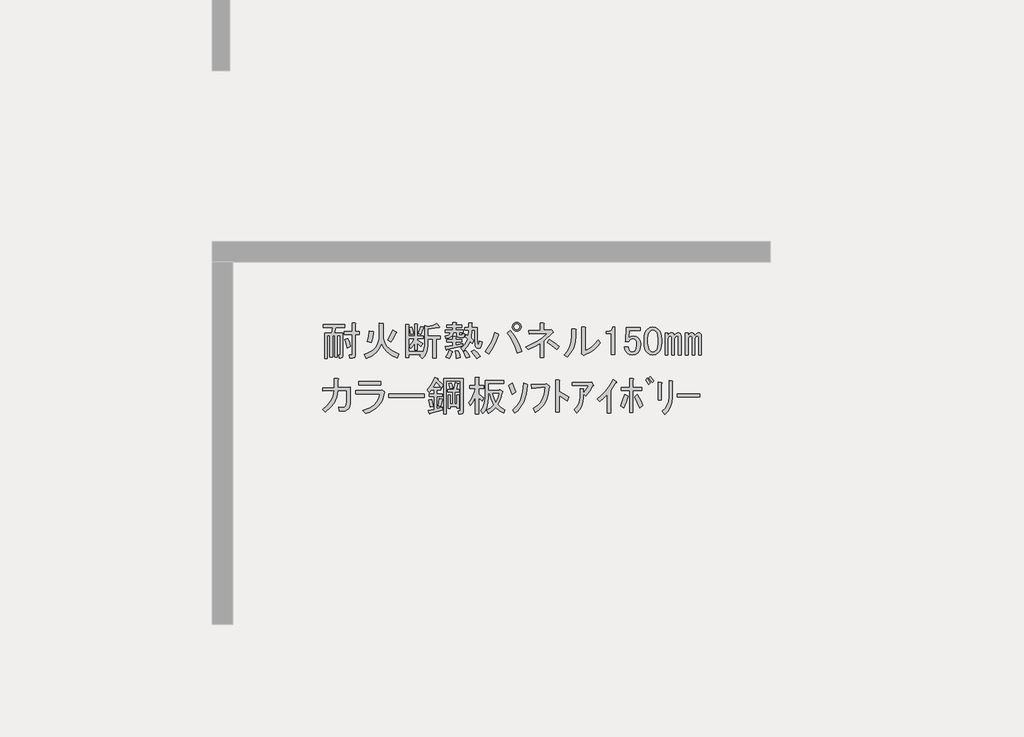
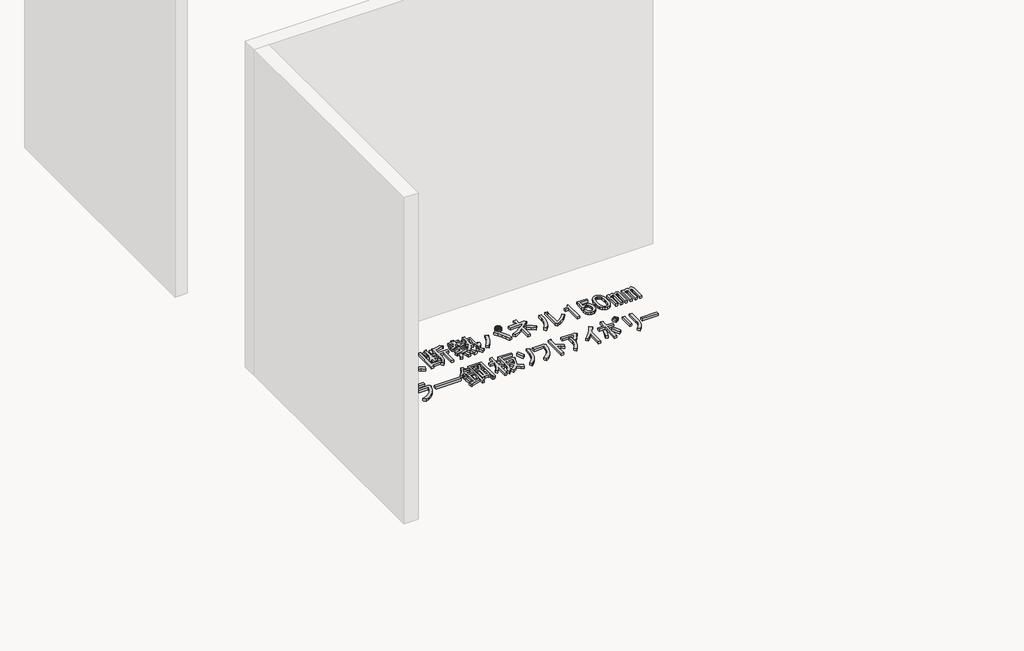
# One storey, part 108 of 117: 1 proxy.
"""IFC4 building model written with IfcOpenShell, lengths in millimetres."""

import ifcopenshell
import ifcopenshell.guid

model = None  # the IFC model being written
_history = None  # IfcOwnerHistory: only IFC2X3 demands one
_inside = {}  # id of a spatial element -> (the spatial element, [elements in it])
_under = {}  # id of a project, library or spatial element -> (it, [spatial elements below it])
_declared = {}  # id of a project -> (the project, [libraries it declares])
_typed = {}  # id of a type object -> (the type object, [elements of that type])
_made_of = {}  # id of a material, layer set ... -> (it, [elements and type objects made of it])


def new_model(schema):
    """Start an empty IFC model of exactly this schema.

    Asked for "IFC4X3", IfcOpenShell would pick the latest addendum, in which some entities
    have other attributes; the version numbers below select the first issue.
    IFC2X3 requires an IfcOwnerHistory on every rooted entity: one is made here for all.
    """
    global model, _history
    if schema == "IFC4X3":
        model = ifcopenshell.file(schema_version=(4, 3, 0, 0))
    else:
        model = ifcopenshell.file(schema=schema)
    _inside.clear()
    _under.clear()
    _declared.clear()
    _typed.clear()
    _made_of.clear()
    _history = None
    if model.schema == "IFC2X3":
        org = make("IfcOrganization", Name="unknown")
        user = make(
            "IfcPersonAndOrganization",
            ThePerson=make("IfcPerson", FamilyName="unknown"),
            TheOrganization=org,
        )
        app = make(
            "IfcApplication",
            ApplicationDeveloper=org,
            Version="unknown",
            ApplicationFullName="unknown",
            ApplicationIdentifier="unknown",
        )
        _history = make(
            "IfcOwnerHistory",
            OwningUser=user,
            OwningApplication=app,
            ChangeAction="ADDED",
            CreationDate=0,
        )
    return model


def make(cls, **values):
    """One entity of the class cls with the attributes given. An attribute that is None is left unset."""
    return model.create_entity(
        cls, **{name: value for name, value in values.items() if value is not None}
    )


def rooted(cls, **values):
    """An entity with a GlobalId (a new one), such as an element, a storey or a relation."""
    return make(cls, GlobalId=ifcopenshell.guid.new(), OwnerHistory=_history, **values)


def si_unit(unit_type, name, prefix=None):
    """IfcSIUnit, for example si_unit("LENGTHUNIT", "METRE", prefix="MILLI")."""
    return make("IfcSIUnit", UnitType=unit_type, Prefix=prefix, Name=name)


def assignment(units):
    """IfcUnitAssignment: the units of a project."""
    return None if units is None else make("IfcUnitAssignment", Units=units)


def point(xyz):
    """IfcCartesianPoint."""
    return None if xyz is None else make("IfcCartesianPoint", Coordinates=xyz)


def direction(xyz):
    """IfcDirection."""
    return None if xyz is None else make("IfcDirection", DirectionRatios=xyz)


def frame(location, z_axis=None, x_axis=None):
    """IfcAxis2Placement3D, a coordinate frame: its origin and axes. An axis left out is left unset."""
    return make(
        "IfcAxis2Placement3D",
        Location=point(location),
        Axis=direction(z_axis),
        RefDirection=direction(x_axis),
    )


def origin():
    """The frame at (0, 0, 0) with its axes left unset."""
    return frame((0.0, 0.0, 0.0))


def place(relative_to, where):
    """IfcLocalPlacement: puts the frame where relative to a parent placement (None: the world)."""
    return make(
        "IfcLocalPlacement", PlacementRelTo=relative_to, RelativePlacement=where
    )


def context(
    kind, dimensions, precision=None, world=None, true_north=None, identifier=None
):
    """IfcGeometricRepresentationContext, for example the 3D "Model" context."""
    return make(
        "IfcGeometricRepresentationContext",
        ContextIdentifier=identifier,
        ContextType=kind,
        CoordinateSpaceDimension=dimensions,
        Precision=precision,
        WorldCoordinateSystem=world,
        TrueNorth=true_north,
    )


def project(units=None, contexts=None):
    """IfcProject with its units and contexts."""
    return rooted(
        "IfcProject",
        Name="project",
        RepresentationContexts=contexts,
        UnitsInContext=assignment(units),
    )


def spatial(cls, under=None, at=None, **own):
    """A site, building, storey or space (cls), placed at a placement, below another one or the project."""
    s = rooted(cls, ObjectPlacement=at, **own)
    if under is not None:
        _under.setdefault(under.id(), (under, []))[1].append(s)
    return s


def polyline(points):
    """IfcPolyline through the points."""
    return make("IfcPolyline", Points=[point(p) for p in points])


def outline(outer, holes=None, kind="AREA"):
    """IfcArbitraryClosedProfileDef: a profile drawn as a closed curve; with holes, ...WithVoids."""
    if holes is None:
        return make("IfcArbitraryClosedProfileDef", ProfileType=kind, OuterCurve=outer)
    return make(
        "IfcArbitraryProfileDefWithVoids",
        ProfileType=kind,
        OuterCurve=outer,
        InnerCurves=holes,
    )


def extrude(swept, where, along, depth):
    """IfcExtrudedAreaSolid: the profile swept, set in the frame where, extruded along a direction by depth."""
    return make(
        "IfcExtrudedAreaSolid",
        SweptArea=swept,
        Position=where,
        ExtrudedDirection=direction(along),
        Depth=depth,
    )


def shape(context_of_items, identifier, shape_type, items):
    """IfcShapeRepresentation: the items that make up one representation, for example the "Body"."""
    return make(
        "IfcShapeRepresentation",
        ContextOfItems=context_of_items,
        RepresentationIdentifier=identifier,
        RepresentationType=shape_type,
        Items=items,
    )


def made_of(thing, what):
    """Note that an element or type object is made of a material, layer set ...; save() writes the relation."""
    if what is not None:
        _made_of.setdefault(what.id(), (what, []))[1].append(thing)
    return thing


def element(
    cls,
    number,
    at=None,
    inside=None,
    cuts=None,
    type_object=None,
    material=None,
    context=None,
    identifier="Body",
    shape_type=None,
    held_by="IfcProductDefinitionShape",
    body=None,
    shapes=None,
    **own,
):
    """One element of the class cls, such as IfcWall. Its Tag is "e" and its number.

    at: its placement. inside: the storey or other place that contains it. cuts: it is an
    opening in that element (IfcRelVoidsElement). A single representation is given by context,
    identifier, shape_type and body (its items); several are given by shapes. held_by: the class
    of the entity that holds the representations. save() writes the other relations.
    """
    e = rooted(cls, Tag="e%d" % number, ObjectPlacement=at, **own)
    if body is not None:
        shapes = [shape(context, identifier, shape_type, body)]
    if shapes is not None:
        e.Representation = make(held_by, Representations=shapes)
    if inside is not None:
        _inside.setdefault(inside.id(), (inside, []))[1].append(e)
    if cuts is not None:
        rooted(
            "IfcRelVoidsElement", RelatingBuildingElement=cuts, RelatedOpeningElement=e
        )
    if type_object is not None:
        _typed.setdefault(type_object.id(), (type_object, []))[1].append(e)
    return made_of(e, material)


def aggregate(whole, parts):
    """IfcRelAggregates: a whole, such as a stair, and the parts it consists of."""
    return rooted("IfcRelAggregates", RelatingObject=whole, RelatedObjects=parts)


def save(model, path):
    """Write the relations noted so far, then the file.

    IfcRelAggregates (storeys below a building ...), IfcRelContainedInSpatialStructure (elements
    in a storey), IfcRelDefinesByType, IfcRelAssociatesMaterial and IfcRelDeclares: one each for
    every whole, place, type object, material and project.
    """
    for whole, parts in _under.values():
        aggregate(whole, parts)
    for where, things in _inside.values():
        rooted(
            "IfcRelContainedInSpatialStructure",
            RelatedElements=things,
            RelatingStructure=where,
        )
    for kind, things in _typed.values():
        rooted("IfcRelDefinesByType", RelatedObjects=things, RelatingType=kind)
    for what, things in _made_of.values():
        rooted("IfcRelAssociatesMaterial", RelatedObjects=things, RelatingMaterial=what)
    for by, libraries in _declared.values():
        rooted("IfcRelDeclares", RelatingContext=by, RelatedDefinitions=libraries)
    model.write(path)


model = new_model("IFC4")

# Units and contexts
model_context = context("Model", 3, world=origin())
ifc_project = project(units=[si_unit("LENGTHUNIT", "METRE", prefix="MILLI")], contexts=[model_context])

# Site, building, storey
site = spatial("IfcSite", under=ifc_project)
building = spatial("IfcBuilding", under=site)
storey = spatial("IfcBuildingStorey", under=building, Name="レベル 1", Elevation=500.0)

# Proxy
placement = place(None, origin())
element("IfcBuildingElementProxy", 1, Name="200㎜\u3000MS Pゴシック", ObjectType="200㎜\u3000MS Pゴシック", at=placement, inside=storey, context=model_context, shape_type="SweptSolid", body=[
    extrude(outline(polyline([(56978.5674486, 3229.3142262), (56971.0959694, 3259.7748726), (56960.176115, 3289.0860605), (56982.0158237, 3297.132269), (56994.372501, 3267.5337164), (57001.5566157, 3238.5098931), (56978.5674486, 3229.3142262)])), frame((0.0, 0.0, 500.0), z_axis=(0.0, 0.0, 1.0), x_axis=(1.0, 0.0, 0.0)), (0.0, 0.0, 1.0), 25.0),
    extrude(outline(polyline([(56887.7602388, 3320.121436), (56871.6678219, 3320.121436), (56871.6678219, 3164.9445585), (56852.1270299, 3164.9445585), (56852.1270299, 3320.121436), (56833.7356963, 3320.121436), (56833.7356963, 3152.3005167), (56814.1949043, 3152.3005167), (56814.1949043, 3338.5127697), (56865.9205301, 3338.5127697), (56871.6678219, 3377.5943537), (56804.9992375, 3377.5943537), (56804.9992375, 3399.4340623), (56960.176115, 3399.4340623), (56960.176115, 3377.5943537), (56895.8064473, 3377.5943537), (56885.4613221, 3338.5127697), (56946.3826148, 3338.5127697), (56946.3826148, 3170.6918503), (56942.3595106, 3158.6225376), (56930.2901979, 3154.5994334), (56919.9450727, 3154.5994334), (56915.3472393, 3176.439142), (56922.2439894, 3176.439142), (56925.6923645, 3177.5886004), (56926.8418228, 3181.0369755), (56926.8418228, 3320.121436), (56907.3010308, 3320.121436), (56907.3010308, 3164.9445585), (56887.7602388, 3164.9445585), (56887.7602388, 3320.121436)])), frame((0.0, 0.0, 500.0), z_axis=(0.0, 0.0, 1.0), x_axis=(1.0, 0.0, 0.0)), (0.0, 0.0, 1.0), 25.0),
    extrude(outline(polyline([(56956.72774, 3325.8687278), (56956.72774, 3347.7084365), (57013.0511992, 3347.7084365), (57013.0511992, 3409.7791875), (57034.8909079, 3409.7791875), (57039.7761059, 3407.4802708), (57036.0403663, 3402.8824374), (57036.0403663, 3347.7084365), (57064.7768251, 3347.7084365), (57064.7768251, 3325.8687278), (57036.0403663, 3325.8687278), (57036.0403663, 3172.990767), (57031.4425328, 3159.1972668), (57017.6490326, 3154.5994334), (56994.6598656, 3154.5994334), (56991.2114905, 3176.439142), (57008.4533658, 3176.439142), (57011.9017409, 3177.5886004), (57013.0511992, 3181.0369755), (57013.0511992, 3325.8687278), (56956.72774, 3325.8687278)])), frame((0.0, 0.0, 500.0), z_axis=(0.0, 0.0, 1.0), x_axis=(1.0, 0.0, 0.0)), (0.0, 0.0, 1.0), 25.0),
    extrude(outline(polyline([(57226.8504527, 3261.4990601), (57210.9017181, 3226.6561038), (57187.1941395, 3196.8420278), (57155.7277172, 3172.0568321), (57116.5024509, 3152.3005167), (57102.7089507, 3181.0369755), (57128.032955, 3190.71757), (57149.9804254, 3202.5174784), (57168.5513619, 3216.4367006), (57183.7457645, 3232.4752367), (57195.5636332, 3250.6330866), (57204.0049679, 3270.9102504), (57209.0697688, 3293.3067279), (57210.7580358, 3317.8225193), (57210.7580358, 3408.6297292), (57237.1955779, 3406.3308125), (57240.6439529, 3402.8824374), (57237.1955779, 3397.1351456), (57237.1955779, 3317.8225193), (57238.9916065, 3296.377937), (57244.3796926, 3276.2983364), (57253.3598359, 3257.5837176), (57265.9320367, 3240.2340806), (57282.0962947, 3224.2494254), (57301.8526102, 3209.629752), (57352.1414131, 3184.4853505), (57340.6468295, 3155.7488917), (57301.2060398, 3175.2896837), (57269.0930471, 3199.4283091), (57244.3078514, 3228.1647679), (57226.8504527, 3261.4990601)])), frame((0.0, 0.0, 500.0), z_axis=(0.0, 0.0, 1.0), x_axis=(1.0, 0.0, 0.0)), (0.0, 0.0, 1.0), 25.0),
    extrude(outline(polyline([(57330.3017044, 3337.3633113), (57310.1861832, 3297.9943628), (57293.5190371, 3271.8441853), (57270.5298701, 3286.7871438), (57290.3580266, 3318.3972485), (57308.4619957, 3358.0535617), (57333.7500794, 3345.4095198), (57336.3363607, 3341.6737801), (57330.3017044, 3337.3633113)])), frame((0.0, 0.0, 500.0), z_axis=(0.0, 0.0, 1.0), x_axis=(1.0, 0.0, 0.0)), (0.0, 0.0, 1.0), 25.0),
    extrude(outline(polyline([(57122.2497427, 3276.4420187), (57134.0316908, 3310.6384046), (57137.1927012, 3353.4557283), (57165.92916, 3346.5589781), (57170.5269934, 3342.8232385), (57165.92916, 3338.5127697), (57162.1934204, 3304.0290191), (57150.9862015, 3267.2463519), (57122.2497427, 3276.4420187)])), frame((0.0, 0.0, 500.0), z_axis=(0.0, 0.0, 1.0), x_axis=(1.0, 0.0, 0.0)), (0.0, 0.0, 1.0), 25.0),
    extrude(outline(polyline([(57647.5522095, 3381.0427287), (57645.828022, 3376.4448953), (57638.3565427, 3378.743812), (57561.3428331, 3366.0997701), (57561.3428331, 3316.673061), (57653.2995013, 3316.673061), (57653.2995013, 3294.8333523), (57622.2641258, 3294.8333523), (57622.2641258, 3154.5994334), (57599.2749588, 3154.5994334), (57599.2749588, 3294.8333523), (57561.3428331, 3294.8333523), (57561.3428331, 3245.4066432), (57558.7565518, 3217.6041193), (57550.997708, 3192.8189236), (57538.0663015, 3171.051056), (57519.9623325, 3152.3005167), (57502.7204572, 3171.8413086), (57513.0655823, 3181.0369755), (57423.4078309, 3181.0369755), (57423.4078309, 3159.1972668), (57400.4186638, 3159.1972668), (57400.4186638, 3398.284604), (57422.2583725, 3398.284604), (57427.1435705, 3395.9856873), (57423.4078309, 3391.3878539), (57423.4078309, 3315.5236026), (57465.9377899, 3315.5236026), (57465.9377899, 3402.8824374), (57484.3291235, 3402.8824374), (57489.2143215, 3400.5835207), (57485.4785819, 3395.9856873), (57485.4785819, 3315.5236026), (57529.1579993, 3315.5236026), (57529.1579993, 3297.132269), (57485.4785819, 3297.132269), (57485.4785819, 3287.9366022), (57525.7096242, 3261.4990601), (57511.916124, 3239.6593514), (57485.4785819, 3266.0968935), (57485.4785819, 3213.2218093), (57465.9377899, 3213.2218093), (57465.9377899, 3261.4990601), (57452.7190189, 3241.6709035), (57438.3507895, 3225.8658512), (57425.7067476, 3244.2571848), (57447.5464563, 3268.3958102), (57464.7883316, 3297.132269), (57423.4078309, 3297.132269), (57423.4078309, 3202.8766841), (57521.1117908, 3202.8766841), (57521.1117908, 3189.0831839), (57534.0431973, 3213.2218093), (57538.3536661, 3246.5561015), (57538.3536661, 3391.3878539), (57560.1933748, 3385.6405621), (57596.4013129, 3393.1120414), (57626.8619592, 3406.3308125), (57647.5522095, 3381.0427287)])), frame((0.0, 0.0, 500.0), z_axis=(0.0, 0.0, 1.0), x_axis=(1.0, 0.0, 0.0)), (0.0, 0.0, 1.0), 25.0),
    extrude(outline(polyline([(57493.5247904, 3332.7654779), (57510.7666656, 3385.6405621), (57531.456916, 3379.8932704), (57533.1811035, 3376.7322599), (57529.1579993, 3374.1459786), (57511.916124, 3325.8687278), (57493.5247904, 3332.7654779)])), frame((0.0, 0.0, 500.0), z_axis=(0.0, 0.0, 1.0), x_axis=(1.0, 0.0, 0.0)), (0.0, 0.0, 1.0), 25.0),
    extrude(outline(polyline([(57439.5002478, 3324.7192695), (57426.8562059, 3375.2954369), (57446.3969979, 3382.1921871), (57454.1558418, 3358.0535617), (57459.0410398, 3331.6160196), (57439.5002478, 3324.7192695)])), frame((0.0, 0.0, 500.0), z_axis=(0.0, 0.0, 1.0), x_axis=(1.0, 0.0, 0.0)), (0.0, 0.0, 1.0), 25.0),
    extrude(outline(polyline([(57770.5442532, 3340.8116864), (57745.2561695, 3340.8116864), (57740.6583361, 3323.3542877), (57730.3132109, 3310.0636755), (57714.220794, 3300.9398498), (57692.3810853, 3295.9828107), (57687.7832519, 3315.5236026), (57713.0713356, 3324.1445403), (57720.5428149, 3331.4723373), (57724.5659191, 3340.8116864), (57688.9327102, 3340.8116864), (57688.9327102, 3359.20302), (57742.9572528, 3359.20302), (57742.9572528, 3376.4448953), (57699.2778354, 3376.4448953), (57699.2778354, 3394.8362289), (57742.9572528, 3394.8362289), (57742.9572528, 3413.2275626), (57764.7969614, 3413.2275626), (57769.6821594, 3410.9286459), (57765.9464198, 3406.3308125), (57765.9464198, 3394.8362289), (57808.4763788, 3394.8362289), (57808.4763788, 3376.4448953), (57765.9464198, 3376.4448953), (57765.9464198, 3359.20302), (57818.821504, 3359.20302), (57818.821504, 3340.8116864), (57790.0850452, 3340.8116864), (57790.0850452, 3328.1676445), (57791.5218681, 3322.9950819), (57795.832337, 3321.2708944), (57806.1774621, 3321.2708944), (57809.9132018, 3324.4319049), (57809.6258372, 3333.9149363), (57829.1666292, 3331.6160196), (57826.2929833, 3310.0636755), (57820.9767384, 3304.6755894), (57813.0742122, 3302.8795608), (57788.9355868, 3302.8795608), (57775.1420866, 3307.7647588), (57770.5442532, 3322.4203528), (57770.5442532, 3340.8116864)])), frame((0.0, 0.0, 500.0), z_axis=(0.0, 0.0, 1.0), x_axis=(1.0, 0.0, 0.0)), (0.0, 0.0, 1.0), 25.0),
    extrude(outline(polyline([(57901.5825053, 3358.0535617), (57879.7427966, 3358.0535617), (57875.1449632, 3300.5806441), (57894.6857552, 3282.1893104), (57884.3406301, 3260.3496017), (57868.2482131, 3276.4420187), (57848.9947857, 3238.7972576), (57818.821504, 3206.3250592), (57801.5796287, 3227.0153095), (57816.6662696, 3238.9409399), (57829.7413583, 3254.0275808), (57840.804895, 3272.2752321), (57849.8568795, 3293.683894), (57832.6150042, 3308.6268525), (57840.6612127, 3325.8687278), (57854.4547129, 3315.5236026), (57856.7536296, 3358.0535617), (57829.1666292, 3358.0535617), (57829.1666292, 3376.4448953), (57856.7536296, 3376.4448953), (57856.7536296, 3410.9286459), (57878.5933383, 3410.9286459), (57883.4785363, 3408.6297292), (57879.7427966, 3404.0318957), (57879.7427966, 3376.4448953), (57921.1232973, 3376.4448953), (57921.1232973, 3279.8903937), (57924.5716724, 3255.7517683), (57927.804524, 3253.7402162), (57930.6063287, 3256.9012267), (57934.9167975, 3278.7409354), (57954.4575895, 3271.8441853), (57949.9315973, 3245.0474374), (57942.1009122, 3229.0268616), (57930.9655345, 3223.7824579), (57916.5254639, 3229.3142262), (57909.9879195, 3236.6420232), (57905.318245, 3248.280289), (57901.5825053, 3284.4882271), (57901.5825053, 3358.0535617)])), frame((0.0, 0.0, 500.0), z_axis=(0.0, 0.0, 1.0), x_axis=(1.0, 0.0, 0.0)), (0.0, 0.0, 1.0), 25.0),
    extrude(outline(polyline([(57700.4272937, 3218.9691011), (57698.4157416, 3214.0839031), (57694.680002, 3215.520726), (57688.9327102, 3239.6593514), (57744.1067111, 3247.7055599), (57744.1067111, 3270.6947269), (57700.4272937, 3270.6947269), (57700.4272937, 3289.0860605), (57744.1067111, 3289.0860605), (57744.1067111, 3312.0752276), (57762.4980447, 3312.0752276), (57767.3832427, 3309.7763109), (57763.6475031, 3305.1784775), (57763.6475031, 3289.0860605), (57808.4763788, 3289.0860605), (57808.4763788, 3270.6947269), (57763.6475031, 3270.6947269), (57763.6475031, 3251.1539349), (57814.2236706, 3260.3496017), (57814.2236706, 3244.2571848), (57700.4272937, 3218.9691011)])), frame((0.0, 0.0, 500.0), z_axis=(0.0, 0.0, 1.0), x_axis=(1.0, 0.0, 0.0)), (0.0, 0.0, 1.0), 25.0),
    extrude(outline(polyline([(57898.1341303, 3214.3712677), (57922.8474849, 3193.1062881), (57941.8135477, 3168.3929336), (57915.3760056, 3153.449975), (57896.1225782, 3183.0485276), (57877.4438799, 3202.8766841), (57898.1341303, 3214.3712677)])), frame((0.0, 0.0, 500.0), z_axis=(0.0, 0.0, 1.0), x_axis=(1.0, 0.0, 0.0)), (0.0, 0.0, 1.0), 25.0),
    extrude(outline(polyline([(57839.5117543, 3155.7488917), (57831.1781813, 3180.4622463), (57817.6720456, 3201.7272258), (57838.362296, 3209.7734343), (57855.3168067, 3188.2210902), (57867.0987548, 3164.9445585), (57839.5117543, 3155.7488917)])), frame((0.0, 0.0, 500.0), z_axis=(0.0, 0.0, 1.0), x_axis=(1.0, 0.0, 0.0)), (0.0, 0.0, 1.0), 25.0),
    extrude(outline(polyline([(57738.3594193, 3204.0261425), (57741.8077944, 3199.1409445), (57736.0605026, 3195.979934), (57726.2901067, 3170.4044857), (57715.3702523, 3151.1510583), (57692.3810853, 3162.6456418), (57705.0251271, 3186.209538), (57715.3702523, 3213.2218093), (57738.3594193, 3204.0261425)])), frame((0.0, 0.0, 500.0), z_axis=(0.0, 0.0, 1.0), x_axis=(1.0, 0.0, 0.0)), (0.0, 0.0, 1.0), 25.0),
    extrude(outline(polyline([(57783.1882951, 3208.6239759), (57793.2460557, 3181.32434), (57798.1312537, 3159.1972668), (57769.3947949, 3153.449975), (57766.8085136, 3175.0023191), (57759.0496697, 3205.1756008), (57783.1882951, 3208.6239759)])), frame((0.0, 0.0, 500.0), z_axis=(0.0, 0.0, 1.0), x_axis=(1.0, 0.0, 0.0)), (0.0, 0.0, 1.0), 25.0),
    extrude(outline(polyline([(58206.1889686, 3350.0073532), (58193.5449268, 3352.3062699), (58183.1998016, 3359.20302), (58176.3030515, 3369.5481452), (58174.0041348, 3382.1921871), (58176.3030515, 3394.8362289), (58183.1998016, 3405.1813541), (58193.5449268, 3412.0781042), (58206.1889686, 3414.3770209), (58218.8330105, 3412.0781042), (58229.1781357, 3405.1813541), (58236.0748858, 3394.8362289), (58238.3738025, 3382.1921871), (58236.0748858, 3369.5481452), (58229.1781357, 3359.20302), (58218.8330105, 3352.3062699), (58206.1889686, 3350.0073532)]), holes=[polyline([(58206.1889686, 3361.5019367), (58214.5225417, 3362.9387597), (58221.1319272, 3367.2492285), (58225.442396, 3373.858614), (58226.879219, 3382.1921871), (58225.442396, 3390.5257601), (58221.1319272, 3397.1351456), (58214.5225417, 3401.4456145), (58206.1889686, 3402.8824374), (58197.8553956, 3401.4456145), (58191.2460101, 3397.1351456), (58186.9355412, 3390.5257601), (58185.4987183, 3382.1921871), (58186.9355412, 3373.858614), (58191.2460101, 3367.2492285), (58197.8553956, 3362.9387597), (58206.1889686, 3361.5019367)])]), frame((0.0, 0.0, 500.0), z_axis=(0.0, 0.0, 1.0), x_axis=(1.0, 0.0, 0.0)), (0.0, 0.0, 1.0), 25.0),
    extrude(outline(polyline([(58160.2106345, 3355.754645), (58186.8637001, 3319.0438188), (58209.3499791, 3281.3272167), (58227.6694716, 3242.6048384), (58241.8221775, 3202.8766841), (58210.786802, 3192.531559), (58195.3409554, 3235.6362472), (58177.7398744, 3274.143102), (58157.983559, 3308.0521234), (58136.0720092, 3337.3633113), (58160.2106345, 3355.754645)])), frame((0.0, 0.0, 500.0), z_axis=(0.0, 0.0, 1.0), x_axis=(1.0, 0.0, 0.0)), (0.0, 0.0, 1.0), 25.0),
    extrude(outline(polyline([(58072.8517998, 3329.3171029), (58076.874904, 3323.8571757), (58070.5528831, 3318.9719777), (58058.6272527, 3283.5542922), (58043.5406118, 3249.717112), (58025.2929605, 3217.460437), (58003.8842987, 3186.7842672), (57977.4467566, 3204.0261425), (58000.6514471, 3235.4925649), (58019.689351, 3268.9705394), (58034.5604684, 3304.460066), (58045.2647993, 3341.9611447), (58072.8517998, 3329.3171029)])), frame((0.0, 0.0, 500.0), z_axis=(0.0, 0.0, 1.0), x_axis=(1.0, 0.0, 0.0)), (0.0, 0.0, 1.0), 25.0),
    extrude(outline(polyline([(58449.8741393, 3360.3524784), (58456.7708894, 3362.6513951), (58469.4149312, 3345.4095198), (58470.5643896, 3339.3748634), (58464.8170978, 3337.3633113), (58401.5968885, 3281.0398521), (58401.5968885, 3160.3467251), (58375.1593464, 3160.3467251), (58375.1593464, 3262.6485184), (58334.9283041, 3238.5098931), (58290.0994283, 3216.6701844), (58270.5586363, 3237.3604347), (58316.1059235, 3256.8293855), (58357.3427419, 3279.6030291), (58394.2690915, 3305.6813655), (58426.8849722, 3335.0643946), (58296.9961784, 3329.3171029), (58293.5478034, 3354.6051866), (58375.1593464, 3356.9041033), (58375.1593464, 3408.6297292), (58398.1485134, 3408.6297292), (58404.1831698, 3405.1813541), (58401.5968885, 3399.4340623), (58401.5968885, 3358.0535617), (58449.8741393, 3360.3524784)])), frame((0.0, 0.0, 500.0), z_axis=(0.0, 0.0, 1.0), x_axis=(1.0, 0.0, 0.0)), (0.0, 0.0, 1.0), 25.0),
    extrude(outline(polyline([(58495.8524733, 3216.6701844), (58458.7824415, 3245.9813723), (58425.7355139, 3267.2463519), (58442.9773892, 3289.0860605), (58481.7716085, 3265.8095289), (58515.3932653, 3239.6593514), (58495.8524733, 3216.6701844)])), frame((0.0, 0.0, 500.0), z_axis=(0.0, 0.0, 1.0), x_axis=(1.0, 0.0, 0.0)), (0.0, 0.0, 1.0), 25.0),
    extrude(outline(polyline([(58702.8469334, 3209.7734343), (58727.6321291, 3221.9864292), (58751.4115488, 3239.0846222), (58774.1851924, 3261.0680132), (58795.9530599, 3287.9366022), (58812.0454768, 3266.0968935), (58788.7689452, 3238.2943696), (58762.6187677, 3214.6586322), (58733.5949443, 3195.1896814), (58701.697475, 3179.8875171), (58692.5018082, 3175.2896837), (58674.1104746, 3189.0831839), (58676.4093913, 3194.8304757), (58676.4093913, 3379.8932704), (58700.5480167, 3379.8932704), (58706.2953084, 3376.4448953), (58702.8469334, 3370.6976035), (58702.8469334, 3209.7734343)])), frame((0.0, 0.0, 500.0), z_axis=(0.0, 0.0, 1.0), x_axis=(1.0, 0.0, 0.0)), (0.0, 0.0, 1.0), 25.0),
    extrude(outline(polyline([(58548.8195142, 3178.7380587), (58573.9639157, 3207.9774056), (58591.9242024, 3240.5214452), (58602.7003745, 3276.3701775), (58606.2924318, 3315.5236026), (58606.2924318, 3367.2492285), (58630.4310572, 3367.2492285), (58636.178349, 3363.8008534), (58632.7299739, 3358.0535617), (58632.7299739, 3316.673061), (58628.9223931, 3270.9102504), (58617.4996507, 3230.17632), (58598.4617468, 3194.4712699), (58571.8086812, 3163.7951002), (58548.8195142, 3178.7380587)])), frame((0.0, 0.0, 500.0), z_axis=(0.0, 0.0, 1.0), x_axis=(1.0, 0.0, 0.0)), (0.0, 0.0, 1.0), 25.0),
    extrude(outline(polyline([(58891.3581031, 3356.9041033), (58899.4043116, 3367.8239577), (58902.8526866, 3379.8932704), (58916.6461869, 3379.8932704), (58916.6461869, 3181.0369755), (58890.2086448, 3181.0369755), (58890.2086448, 3333.9149363), (58855.7248942, 3333.9149363), (58855.7248942, 3347.7084365), (58866.0700194, 3347.7084365), (58880.4382488, 3350.0073532), (58891.3581031, 3356.9041033)])), frame((0.0, 0.0, 500.0), z_axis=(0.0, 0.0, 1.0), x_axis=(1.0, 0.0, 0.0)), (0.0, 0.0, 1.0), 25.0),
    extrude(outline(polyline([(59000.5566466, 3376.4448953), (59099.4100648, 3376.4448953), (59099.4100648, 3354.6051866), (59022.3963552, 3354.6051866), (59022.3963552, 3351.1568116), (59018.9479802, 3308.6268525), (59017.7985218, 3301.7301024), (59033.3162096, 3312.0752276), (59049.9833557, 3315.5236026), (59070.9609706, 3311.787863), (59087.9154813, 3300.5806441), (59099.984794, 3280.7524875), (59104.0078982, 3253.4528516), (59098.8353357, 3218.9691011), (59092.3696324, 3205.1756008), (59083.3176479, 3193.6810173), (59065.2136789, 3181.6117046), (59043.0866056, 3177.5886004), (59022.1089907, 3181.32434), (59005.15448, 3192.531559), (58993.0851673, 3211.2102572), (58986.7631463, 3237.3604347), (59013.2006884, 3237.3604347), (59017.2237927, 3218.6817365), (59024.695272, 3206.3250592), (59032.4541158, 3201.1524966), (59041.9371472, 3199.4283091), (59054.2938245, 3201.4398612), (59063.7768559, 3207.4745175), (59073.2598873, 3224.4290282), (59076.4208978, 3250.0044766), (59073.8346165, 3274.143102), (59066.0757726, 3289.0860605), (59058.6042933, 3294.2586231), (59049.9833557, 3295.9828107), (59037.0519492, 3293.3965294), (59025.8447303, 3285.6376855), (59016.6490635, 3275.2925603), (58993.6598964, 3275.2925603), (58994.8093548, 3283.3387688), (59000.5566466, 3371.8470619), (59000.5566466, 3376.4448953)])), frame((0.0, 0.0, 500.0), z_axis=(0.0, 0.0, 1.0), x_axis=(1.0, 0.0, 0.0)), (0.0, 0.0, 1.0), 25.0),
    extrude(outline(polyline([(59129.295982, 3290.2355189), (59130.7328049, 3313.7994151), (59135.0432737, 3333.9149363), (59142.2273884, 3350.5820824), (59152.285149, 3363.8008534), (59170.3891181, 3375.8701661), (59192.5161914, 3379.8932704), (59214.6432646, 3375.8701661), (59232.7472337, 3363.8008534), (59242.8049943, 3350.5820824), (59249.989109, 3333.9149363), (59254.2995778, 3313.7994151), (59255.7364007, 3290.2355189), (59255.7364007, 3267.2463519), (59254.2995778, 3244.1853437), (59249.989109, 3224.4290282), (59242.8049943, 3207.9774056), (59232.7472337, 3194.8304757), (59214.6432646, 3182.761163), (59192.5161914, 3178.7380587), (59170.3891181, 3182.761163), (59152.285149, 3194.8304757), (59142.2273884, 3207.9774056), (59135.0432737, 3224.4290282), (59130.7328049, 3244.1853437), (59129.295982, 3267.2463519), (59129.295982, 3290.2355189)]), holes=[polyline([(59192.5161914, 3358.0535617), (59181.596337, 3355.754645), (59171.825941, 3348.8578948), (59165.2883966, 3339.7340692), (59160.6187221, 3327.3055507), (59156.8829824, 3292.5344356), (59156.8829824, 3266.0968935), (59160.9060867, 3231.9005075), (59165.934967, 3219.3283068), (59172.9753994, 3209.7734343), (59182.4584308, 3202.8766841), (59192.5161914, 3200.5777674), (59203.4360457, 3202.8766841), (59213.2064417, 3209.7734343), (59219.7439861, 3218.8972599), (59224.4136606, 3231.3257784), (59228.1494003, 3266.0968935), (59228.1494003, 3292.5344356), (59224.4136606, 3327.3055507), (59219.7439861, 3339.7340692), (59213.2064417, 3348.8578948), (59203.4360457, 3355.754645), (59192.5161914, 3358.0535617)])]), frame((0.0, 0.0, 500.0), z_axis=(0.0, 0.0, 1.0), x_axis=(1.0, 0.0, 0.0)), (0.0, 0.0, 1.0), 25.0),
    extrude(outline(polyline([(59522.4107384, 3339.662228), (59530.7443114, 3338.2254051), (59537.353697, 3333.9149363), (59542.5262595, 3325.2939986), (59544.2504471, 3313.2246859), (59544.2504471, 3178.7380587), (59524.7096551, 3178.7380587), (59524.7096551, 3302.8795608), (59522.1233738, 3312.3625922), (59514.3645299, 3315.5236026), (59504.0194048, 3310.9257692), (59497.9847484, 3302.3048316), (59495.9731963, 3292.5344356), (59495.9731963, 3178.7380587), (59476.4324043, 3178.7380587), (59476.4324043, 3302.8795608), (59473.846123, 3312.3625922), (59466.0872791, 3315.5236026), (59455.742154, 3310.9257692), (59449.7074976, 3302.3048316), (59447.6959455, 3292.5344356), (59447.6959455, 3178.7380587), (59428.1551535, 3178.7380587), (59428.1551535, 3336.213853), (59447.6959455, 3336.213853), (59447.6959455, 3318.9719777), (59459.7652582, 3334.4896654), (59472.9840292, 3339.662228), (59482.1796961, 3338.2254051), (59489.0764462, 3333.9149363), (59495.9731963, 3320.121436), (59508.9046028, 3334.77703), (59522.4107384, 3339.662228)])), frame((0.0, 0.0, 500.0), z_axis=(0.0, 0.0, 1.0), x_axis=(1.0, 0.0, 0.0)), (0.0, 0.0, 1.0), 25.0),
    extrude(outline(polyline([(59300.5652764, 3178.7380587), (59281.0244845, 3178.7380587), (59281.0244845, 3336.213853), (59300.5652764, 3336.213853), (59300.5652764, 3318.9719777), (59312.6345891, 3334.4896654), (59325.8533602, 3339.662228), (59335.049027, 3338.2254051), (59341.9457771, 3333.9149363), (59348.8425272, 3320.121436), (59361.7739337, 3334.77703), (59375.2800693, 3339.662228), (59383.6136424, 3338.2254051), (59390.2230279, 3333.9149363), (59395.3955905, 3325.2939986), (59397.119778, 3313.2246859), (59397.119778, 3178.7380587), (59377.578986, 3178.7380587), (59377.578986, 3302.8795608), (59374.9927047, 3312.3625922), (59367.2338609, 3315.5236026), (59356.8887357, 3310.9257692), (59350.8540793, 3302.3048316), (59348.8425272, 3292.5344356), (59348.8425272, 3178.7380587), (59329.3017352, 3178.7380587), (59329.3017352, 3302.8795608), (59326.715454, 3312.3625922), (59318.9566101, 3315.5236026), (59308.6114849, 3310.9257692), (59302.5768286, 3302.3048316), (59300.5652764, 3292.5344356), (59300.5652764, 3178.7380587)])), frame((0.0, 0.0, 500.0), z_axis=(0.0, 0.0, 1.0), x_axis=(1.0, 0.0, 0.0)), (0.0, 0.0, 1.0), 25.0),
    extrude(outline(polyline([(56975.1190736, 2921.2708944), (56909.5999475, 2918.9719777), (56901.3382156, 2872.706279), (56883.44977, 2831.6131429), (56855.9346107, 2795.6925694), (56818.7927377, 2764.9445585), (56799.2519457, 2784.4853505), (56834.2385843, 2812.7189213), (56859.8858738, 2844.5445494), (56876.1938142, 2879.9622349), (56883.1624054, 2918.9719777), (56801.5508624, 2916.673061), (56799.2519457, 2939.662228), (56884.3118638, 2941.9611447), (56884.3118638, 3006.3308125), (56908.4504892, 3006.3308125), (56915.3472393, 3002.8824374), (56910.7494059, 2997.1351456), (56910.7494059, 2941.9611447), (57001.5566157, 2945.4095198), (57001.5566157, 2874.143102), (56998.9703344, 2826.1532158), (56991.2114905, 2794.8304757), (56984.602105, 2784.7727151), (56975.1190736, 2777.5886004), (56962.7623963, 2773.2781316), (56947.5320731, 2771.8413086), (56919.9450727, 2771.8413086), (56916.4966976, 2800.5777674), (56946.3826148, 2798.2788507), (56960.4634796, 2801.1524966), (56968.2223235, 2809.7734343), (56973.3948861, 2835.061518), (56975.1190736, 2874.143102), (56975.1190736, 2921.2708944)])), frame((0.0, 0.0, 500.0), z_axis=(0.0, 0.0, 1.0), x_axis=(1.0, 0.0, 0.0)), (0.0, 0.0, 1.0), 25.0),
    extrude(outline(polyline([(57089.9729521, 2775.2896837), (57139.6151847, 2793.6091762), (57159.8564279, 2805.7323697), (57177.0444223, 2819.8311948), (57191.179168, 2835.9056515), (57202.2606649, 2853.9557397), (57210.2889131, 2873.9814594), (57215.2639125, 2895.9828107), (57040.546243, 2895.9828107), (57040.546243, 2921.2708944), (57216.4133709, 2921.2708944), (57226.758496, 2924.7192695), (57247.4487464, 2912.0752276), (57250.3223922, 2906.6153004), (57245.1498297, 2901.7301024), (57239.0253719, 2874.2508637), (57229.8476653, 2849.2860651), (57217.6167101, 2826.8357067), (57202.332506, 2806.8997884), (57183.9950533, 2789.4783102), (57162.6043517, 2774.5712722), (57138.1604015, 2762.1786744), (57110.6632025, 2752.3005167), (57089.9729521, 2775.2896837)])), frame((0.0, 0.0, 500.0), z_axis=(0.0, 0.0, 1.0), x_axis=(1.0, 0.0, 0.0)), (0.0, 0.0, 1.0), 25.0),
    extrude(outline(polyline([(57219.8617459, 2961.5019367), (57061.2364933, 2961.5019367), (57061.2364933, 2986.7900205), (57219.8617459, 2986.7900205), (57219.8617459, 2961.5019367)])), frame((0.0, 0.0, 500.0), z_axis=(0.0, 0.0, 1.0), x_axis=(1.0, 0.0, 0.0)), (0.0, 0.0, 1.0), 25.0),
    extrude(outline(polyline([(57278.8979269, 2870.6947269), (57278.8979269, 2895.9828107), (57535.2271394, 2895.9828107), (57535.2271394, 2870.6947269), (57278.8979269, 2870.6947269)])), frame((0.0, 0.0, 500.0), z_axis=(0.0, 0.0, 1.0), x_axis=(1.0, 0.0, 0.0)), (0.0, 0.0, 1.0), 25.0),
    extrude(outline(polyline([(57730.3591892, 2974.1459786), (57737.5433039, 2958.9156554), (57743.0032311, 2938.5127697), (57725.7613558, 2932.7654779), (57714.2667723, 2969.5481452), (57730.3591892, 2974.1459786)])), frame((0.0, 0.0, 500.0), z_axis=(0.0, 0.0, 1.0), x_axis=(1.0, 0.0, 0.0)), (0.0, 0.0, 1.0), 25.0),
    extrude(outline(polyline([(57783.2342734, 2972.9965202), (57785.8205547, 2969.5481452), (57779.7858984, 2966.0997701), (57767.1418565, 2928.1676445), (57787.8321068, 2928.1676445), (57787.8321068, 2909.7763109), (57756.7967313, 2909.7763109), (57756.7967313, 2821.2680178), (57771.7396899, 2821.2680178), (57771.7396899, 2889.0860605), (57787.8321068, 2889.0860605), (57787.8321068, 2794.8304757), (57771.7396899, 2794.8304757), (57771.7396899, 2802.8766841), (57725.7613558, 2802.8766841), (57725.7613558, 2790.2326423), (57709.6689389, 2790.2326423), (57709.6689389, 2886.7871438), (57725.7613558, 2886.7871438), (57725.7613558, 2821.2680178), (57740.7043144, 2821.2680178), (57740.7043144, 2909.7763109), (57705.0711055, 2909.7763109), (57705.0711055, 2928.1676445), (57751.0494396, 2928.1676445), (57761.3945647, 2977.5943537), (57783.2342734, 2972.9965202)])), frame((0.0, 0.0, 500.0), z_axis=(0.0, 0.0, 1.0), x_axis=(1.0, 0.0, 0.0)), (0.0, 0.0, 1.0), 25.0),
    extrude(outline(polyline([(57677.484105, 3006.3308125), (57817.718024, 3006.3308125), (57817.718024, 2766.0940169), (57813.9822843, 2754.8867979), (57802.7750654, 2751.1510583), (57786.6826485, 2751.1510583), (57782.0848151, 2772.990767), (57793.5793986, 2772.990767), (57797.0277736, 2774.1402253), (57798.177232, 2777.5886004), (57798.177232, 2987.9394788), (57697.024897, 2987.9394788), (57697.024897, 2748.8521416), (57677.484105, 2748.8521416), (57677.484105, 3006.3308125)])), frame((0.0, 0.0, 500.0), z_axis=(0.0, 0.0, 1.0), x_axis=(1.0, 0.0, 0.0)), (0.0, 0.0, 1.0), 25.0),
    extrude(outline(polyline([(57665.9895215, 2858.050685), (57668.5758028, 2854.8896746), (57664.8400632, 2852.3033933), (57656.7938547, 2805.1756008), (57638.4025211, 2807.4745175), (57644.1498128, 2861.4990601), (57665.9895215, 2858.050685)])), frame((0.0, 0.0, 500.0), z_axis=(0.0, 0.0, 1.0), x_axis=(1.0, 0.0, 0.0)), (0.0, 0.0, 1.0), 25.0),
    extrude(outline(polyline([(57588.9758119, 2856.9012267), (57600.4703954, 2805.1756008), (57579.7801451, 2799.4283091), (57568.2855616, 2851.1539349), (57588.9758119, 2856.9012267)])), frame((0.0, 0.0, 500.0), z_axis=(0.0, 0.0, 1.0), x_axis=(1.0, 0.0, 0.0)), (0.0, 0.0, 1.0), 25.0),
    extrude(outline(polyline([(57662.5411464, 2937.3633113), (57621.1606458, 2981.0427287), (57599.3209371, 2941.9611447), (57654.494938, 2941.9611447), (57654.494938, 2923.5698111), (57628.0573959, 2923.5698111), (57628.0573959, 2894.8333523), (57665.9895215, 2894.8333523), (57665.9895215, 2876.4420187), (57628.0573959, 2876.4420187), (57628.0573959, 2789.0831839), (57667.1389799, 2799.4283091), (57669.4378966, 2779.8875171), (57577.4812284, 2754.5994334), (57575.1823117, 2748.8521416), (57570.5844783, 2752.3005167), (57563.6877282, 2775.2896837), (57608.5166039, 2784.4853505), (57608.5166039, 2876.4420187), (57570.5844783, 2876.4420187), (57570.5844783, 2894.8333523), (57608.5166039, 2894.8333523), (57608.5166039, 2923.5698111), (57586.6768952, 2923.5698111), (57571.7339366, 2905.1784775), (57559.0898948, 2925.8687278), (57587.2516244, 2963.5134888), (57611.964979, 3014.3770209), (57633.8046876, 3008.6297292), (57637.2530627, 3004.8939895), (57631.5057709, 3002.8824374), (57630.3563126, 2999.4340623), (57675.1851883, 2961.5019367), (57662.5411464, 2937.3633113)])), frame((0.0, 0.0, 500.0), z_axis=(0.0, 0.0, 1.0), x_axis=(1.0, 0.0, 0.0)), (0.0, 0.0, 1.0), 25.0),
    extrude(outline(polyline([(57906.2263171, 2748.8521416), (57906.2263171, 2868.3958102), (57888.4097126, 2834.1994242), (57869.4436498, 2812.072351), (57857.9490663, 2832.7626013), (57875.1909416, 2855.4644037), (57888.9844418, 2879.8903937), (57899.329567, 2906.0405712), (57906.2263171, 2933.9149363), (57864.8458164, 2933.9149363), (57864.8458164, 2955.754645), (57906.2263171, 2955.754645), (57906.2263171, 3015.5264793), (57928.0660258, 3015.5264793), (57932.9512238, 3013.2275626), (57929.2154841, 3008.6297292), (57929.2154841, 2955.754645), (57967.1476097, 2955.754645), (57967.1476097, 2933.9149363), (57929.2154841, 2933.9149363), (57929.2154841, 2893.683894), (57967.1476097, 2867.2463519), (57956.8024846, 2844.2571848), (57929.2154841, 2867.2463519), (57929.2154841, 2748.8521416), (57906.2263171, 2748.8521416)])), frame((0.0, 0.0, 500.0), z_axis=(0.0, 0.0, 1.0), x_axis=(1.0, 0.0, 0.0)), (0.0, 0.0, 1.0), 25.0),
    extrude(outline(polyline([(57988.9873184, 2777.5886004), (58017.7237772, 2794.8304757), (58039.5634859, 2816.6701844), (58021.7468815, 2858.6254142), (58011.9764855, 2899.4311857), (57999.3324436, 2899.4311857), (57999.3324436, 2875.2925603), (57996.8898446, 2833.5528539), (57989.5620476, 2799.1409445), (57977.3490526, 2772.0568321), (57960.2508596, 2752.3005167), (57946.4573594, 2775.2896837), (57959.5324482, 2792.6752413), (57968.8717973, 2814.9459968), (57974.4754067, 2842.1019504), (57976.3432766, 2874.143102), (57976.3432766, 2994.8362289), (58113.1288204, 2994.8362289), (58113.1288204, 2972.9965202), (57999.3324436, 2972.9965202), (57999.3324436, 2921.2708944), (58078.6450699, 2921.2708944), (58084.3923616, 2927.0181862), (58103.9331536, 2913.2246859), (58105.3699766, 2909.4889463), (58100.4847786, 2905.1784775), (58088.1281013, 2858.6254142), (58069.4494031, 2817.8196427), (58088.4154659, 2799.4283091), (58120.0255706, 2781.0369755), (58110.8299037, 2756.8983501), (58082.9555387, 2772.990767), (58054.5064445, 2798.2788507), (58030.0804545, 2773.8528608), (57998.1829852, 2753.449975), (57988.9873184, 2777.5886004)]), holes=[polyline([(58033.8161942, 2899.4311857), (58041.8624026, 2866.3842581), (58054.5064445, 2838.5098931), (58067.1504864, 2864.6600706), (58075.1966948, 2899.4311857), (58033.8161942, 2899.4311857)])]), frame((0.0, 0.0, 500.0), z_axis=(0.0, 0.0, 1.0), x_axis=(1.0, 0.0, 0.0)), (0.0, 0.0, 1.0), 25.0),
    extrude(outline(polyline([(58171.7511964, 2976.4448953), (58199.3381969, 2910.9257692), (58175.1995715, 2892.5344356), (58148.7620294, 2958.0535617), (58171.7511964, 2976.4448953)])), frame((0.0, 0.0, 500.0), z_axis=(0.0, 0.0, 1.0), x_axis=(1.0, 0.0, 0.0)), (0.0, 0.0, 1.0), 25.0),
    extrude(outline(polyline([(58280.9497398, 2964.9503118), (58284.9728441, 2960.9272075), (58280.9497398, 2958.0535617), (58273.2627371, 2893.7557351), (58255.9490207, 2838.7972576), (58243.6821448, 2814.8202748), (58229.0085906, 2793.1781293), (58211.9283579, 2773.870821), (58192.4414467, 2756.8983501), (58176.3490298, 2781.0369755), (58194.2195151, 2795.6566489), (58209.8988455, 2813.078127), (58223.3870208, 2833.3014099), (58234.6840412, 2856.3264975), (58250.704617, 2910.7820869), (58257.9605728, 2976.4448953), (58280.9497398, 2964.9503118)])), frame((0.0, 0.0, 500.0), z_axis=(0.0, 0.0, 1.0), x_axis=(1.0, 0.0, 0.0)), (0.0, 0.0, 1.0), 25.0),
    extrude(outline(polyline([(58314.0541404, 2936.213853), (58310.6057653, 2962.6513951), (58417.5053921, 2966.0997701), (58423.2526838, 2967.2492285), (58442.7934758, 2953.4557283), (58444.5176633, 2948.8578948), (58440.4945591, 2946.5589781), (58431.658098, 2885.4940032), (58423.198803, 2858.7331759), (58412.0454649, 2834.4867888), (58398.1980838, 2812.7548419), (58381.6566597, 2793.537335), (58362.4211926, 2776.8342684), (58340.4916825, 2762.6456418), (58324.3992656, 2789.0831839), (58361.0382505, 2814.7304734), (58375.8016062, 2830.8408506), (58388.1942041, 2849.1423828), (58405.8671263, 2892.3189122), (58414.057017, 2944.2600614), (58314.0541404, 2936.213853)])), frame((0.0, 0.0, 500.0), z_axis=(0.0, 0.0, 1.0), x_axis=(1.0, 0.0, 0.0)), (0.0, 0.0, 1.0), 25.0),
    extrude(outline(polyline([(58512.6805436, 2913.2246859), (58548.3137525, 2894.2586231), (58581.6480447, 2871.8441853), (58571.3029196, 2844.2571848), (58540.5549087, 2867.5337164), (58512.6805436, 2884.4882271), (58512.6805436, 2764.9445585), (58489.6913766, 2764.9445585), (58489.6913766, 2998.284604), (58511.5310853, 2995.9856873), (58517.5657416, 2992.8246768), (58512.6805436, 2987.9394788), (58512.6805436, 2913.2246859)])), frame((0.0, 0.0, 500.0), z_axis=(0.0, 0.0, 1.0), x_axis=(1.0, 0.0, 0.0)), (0.0, 0.0, 1.0), 25.0),
    extrude(outline(polyline([(58688.2718015, 2897.132269), (58727.3533854, 2955.754645), (58607.8097168, 2955.754645), (58607.8097168, 2977.5943537), (58738.847969, 2977.5943537), (58748.0436358, 2982.1921871), (58761.837136, 2961.5019367), (58762.6992298, 2956.6167387), (58758.388761, 2955.754645), (58733.3880418, 2916.0983318), (58706.6631351, 2879.8903937), (58688.2718015, 2894.8333523), (58688.2718015, 2868.3958102), (58685.3263144, 2837.4322758), (58676.4898534, 2808.9113405), (58661.7624182, 2782.8330041), (58641.144009, 2759.1972668), (58623.9021338, 2783.3358922), (58642.0061028, 2802.301955), (58654.9375093, 2823.5669345), (58662.6963531, 2847.1308307), (58665.2826344, 2872.9936436), (58665.2826344, 2935.0643946), (58687.1223431, 2932.7654779), (58692.5822703, 2929.891832), (58688.2718015, 2925.8687278), (58688.2718015, 2897.132269)])), frame((0.0, 0.0, 500.0), z_axis=(0.0, 0.0, 1.0), x_axis=(1.0, 0.0, 0.0)), (0.0, 0.0, 1.0), 25.0),
    extrude(outline(polyline([(58790.2517465, 2860.3496017), (58822.5084215, 2886.4279381), (58852.6098621, 2918.6846131), (58880.5560683, 2957.1196268), (58906.34704, 3001.732979), (58927.0372904, 2984.4911038), (58929.9109362, 2979.3185412), (58924.7383737, 2977.5943537), (58885.6567897, 2920.121436), (58885.6567897, 2759.1972668), (58862.6676226, 2759.1972668), (58862.6676226, 2892.5344356), (58835.942716, 2864.9474352), (58806.3441634, 2839.6593514), (58790.2517465, 2860.3496017)])), frame((0.0, 0.0, 500.0), z_axis=(0.0, 0.0, 1.0), x_axis=(1.0, 0.0, 0.0)), (0.0, 0.0, 1.0), 25.0),
    extrude(outline(polyline([(59009.706335, 2881.0398521), (59013.7294393, 2877.8788416), (59009.706335, 2875.2925603), (58998.2117515, 2835.9236118), (58982.1193346, 2793.6810173), (58957.9807092, 2808.6239759), (58975.5099491, 2850.0044766), (58989.0160847, 2891.3849772), (59009.706335, 2881.0398521)])), frame((0.0, 0.0, 500.0), z_axis=(0.0, 0.0, 1.0), x_axis=(1.0, 0.0, 0.0)), (0.0, 0.0, 1.0), 25.0),
    extrude(outline(polyline([(59078.6738362, 2890.2355189), (59103.3871907, 2848.5676536), (59120.0543368, 2813.2218093), (59098.2146281, 2793.6810173), (59061.4319609, 2872.9936436), (59078.6738362, 2890.2355189)])), frame((0.0, 0.0, 500.0), z_axis=(0.0, 0.0, 1.0), x_axis=(1.0, 0.0, 0.0)), (0.0, 0.0, 1.0), 25.0),
    extrude(outline(polyline([(59047.6384607, 2943.1106031), (59112.0081284, 2943.1106031), (59112.0081284, 2921.2708944), (59047.6384607, 2921.2708944), (59047.6384607, 2760.3467251), (59024.6492936, 2760.3467251), (59024.6492936, 2921.2708944), (58962.5785426, 2921.2708944), (58962.5785426, 2943.1106031), (59024.6492936, 2943.1106031), (59024.6492936, 3008.6297292), (59046.4890023, 3006.3308125), (59052.5236587, 3003.169802), (59047.6384607, 2998.284604), (59047.6384607, 2943.1106031)])), frame((0.0, 0.0, 500.0), z_axis=(0.0, 0.0, 1.0), x_axis=(1.0, 0.0, 0.0)), (0.0, 0.0, 1.0), 25.0),
    extrude(outline(polyline([(59152.0552574, 3009.7791875), (59175.0444244, 2976.4448953), (59162.4003825, 2963.8008534), (59140.5606738, 2998.284604), (59152.0552574, 3009.7791875)])), frame((0.0, 0.0, 500.0), z_axis=(0.0, 0.0, 1.0), x_axis=(1.0, 0.0, 0.0)), (0.0, 0.0, 1.0), 25.0),
    extrude(outline(polyline([(59175.0444244, 3021.273771), (59199.1830498, 2990.2383955), (59186.5390079, 2977.5943537), (59163.5498409, 3009.7791875), (59175.0444244, 3021.273771)])), frame((0.0, 0.0, 500.0), z_axis=(0.0, 0.0, 1.0), x_axis=(1.0, 0.0, 0.0)), (0.0, 0.0, 1.0), 25.0),
    extrude(outline(polyline([(59231.3678837, 2981.0427287), (59253.2075923, 2978.743812), (59259.2422487, 2975.5828015), (59254.3570507, 2970.6976035), (59254.3570507, 2852.3033933), (59231.3678837, 2852.3033933), (59231.3678837, 2981.0427287)])), frame((0.0, 0.0, 500.0), z_axis=(0.0, 0.0, 1.0), x_axis=(1.0, 0.0, 0.0)), (0.0, 0.0, 1.0), 25.0),
    extrude(outline(polyline([(59332.5202186, 2869.5452686), (59329.1436847, 2832.618919), (59319.014083, 2800.0030383), (59302.1314134, 2771.6976263), (59278.4956761, 2747.7026832), (59261.2538008, 2770.6918503), (59282.375098, 2790.5200069), (59297.4617389, 2814.3712677), (59306.5137234, 2842.2456327), (59309.5310516, 2874.143102), (59309.5310516, 2992.5373122), (59331.3707603, 2990.2383955), (59337.4054166, 2986.5026559), (59332.5202186, 2982.1921871), (59332.5202186, 2869.5452686)])), frame((0.0, 0.0, 500.0), z_axis=(0.0, 0.0, 1.0), x_axis=(1.0, 0.0, 0.0)), (0.0, 0.0, 1.0), 25.0),
    extrude(outline(polyline([(59369.9465826, 2871.8441853), (59369.9465826, 2893.683894), (59533.1696686, 2893.683894), (59533.1696686, 2871.8441853), (59369.9465826, 2871.8441853)])), frame((0.0, 0.0, 500.0), z_axis=(0.0, 0.0, 1.0), x_axis=(1.0, 0.0, 0.0)), (0.0, 0.0, 1.0), 25.0),
])

save(model, "model.ifc")
